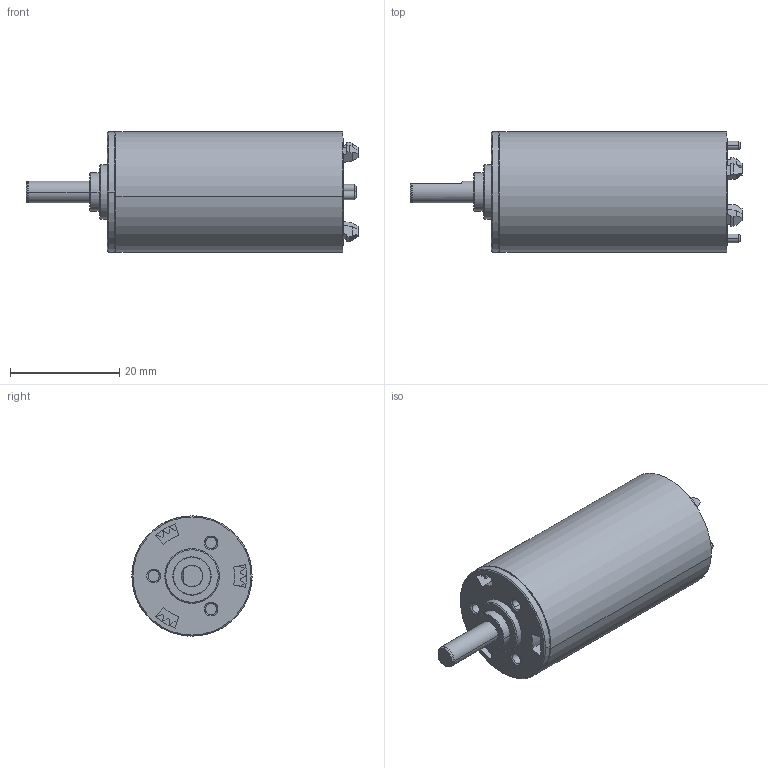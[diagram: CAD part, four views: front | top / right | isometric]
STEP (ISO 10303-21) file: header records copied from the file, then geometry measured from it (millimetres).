
FILE_DESCRIPTION((''),'2;1');
FILE_NAME('GP22L','2016-10-04T',('mmagvisi'),(''),'CREO PARAMETRIC BY PTC INC, 2016050','CREO PARAMETRIC BY PTC INC, 2016050','');
FILE_SCHEMA(('CONFIG_CONTROL_DESIGN'));
Length unit declared in the file: millimetre
Products named in the file (1): GP22L
Bounding box: 60.7 x 22 x 22 mm (x, y, z)
Volume: 16199.5 mm3; surface area: 5060.1 mm2
Topology: 1 solids, 34 shells, 645 faces, 1643 edges, 1082 vertices
Faces by surface type: plane 247, bspline 176, cylinder 136, cone 85, torus 1
Entity records: 27133 total; most frequent: CARTESIAN_POINT 7566, ORIENTED_EDGE 3286, DIRECTION 2532, PRESENTATION_STYLE_ASSIGNMENT 1644, STYLED_ITEM 1644, CURVE_STYLE 1643, EDGE_CURVE 1643, VERTEX_POINT 1082
